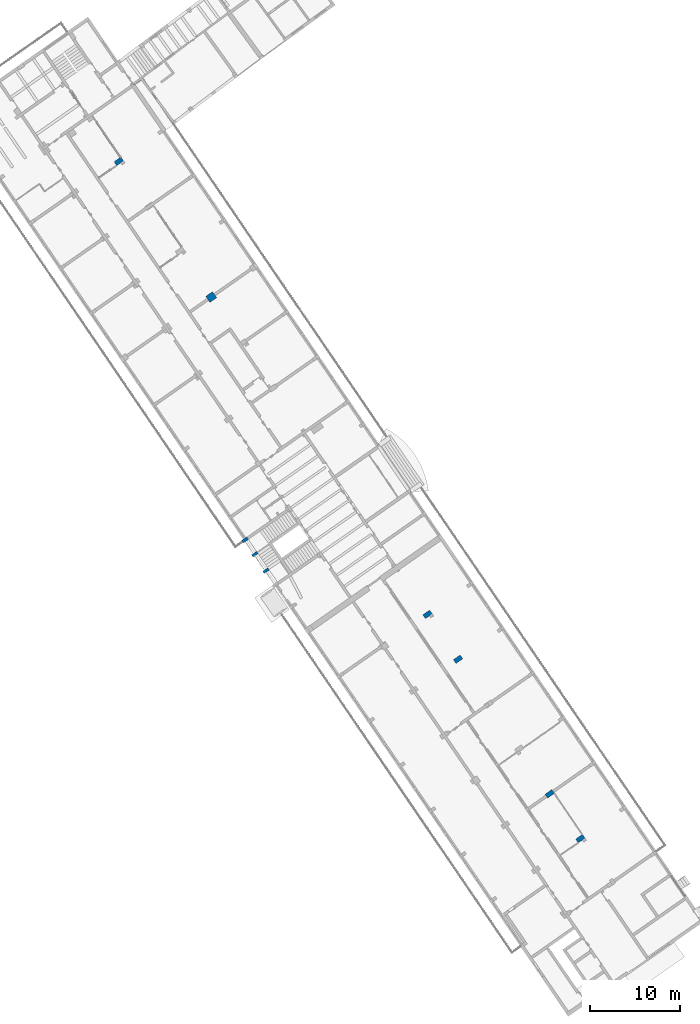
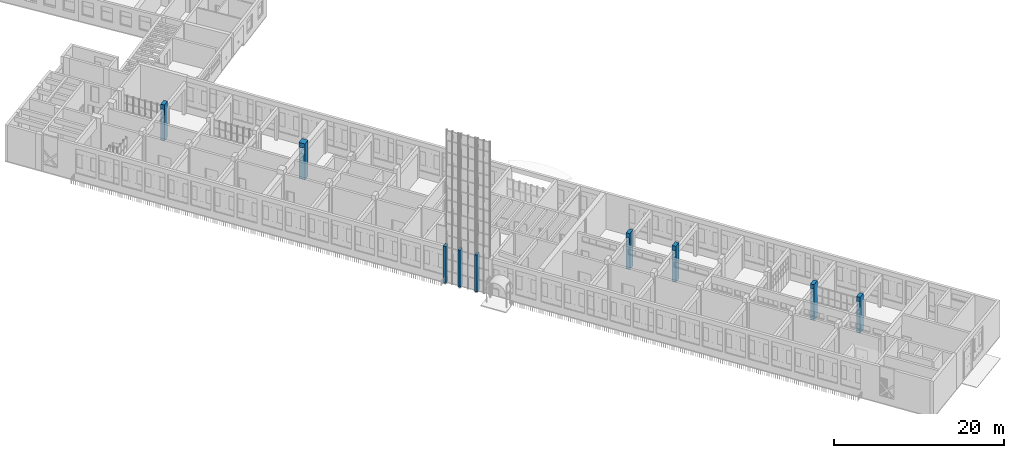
# One storey, part 1 of 157: 9 columns, 2 openings.
"""IFC2X3 building model written with IfcOpenShell, lengths in millimetres."""

from ifc_helpers import new_model, entity, si_unit, converted_unit, derived_unit, direction, frame, frame_2d, origin, origin_2d_with_axis, place, context, subcontext, project, spatial, rectangle, extrude, boolean, source, transform, mapped, material, material_list, type_object, type_shapes, element, save


model = new_model("IFC2X3")

# Units and contexts
model_context = context("Model", 3, precision=0.01, world=origin(), true_north=direction((6.123031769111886e-17, 1.0)))
body_context = subcontext(model_context, "Body", "Model", "MODEL_VIEW")
ifc_project = project(units=[si_unit("LENGTHUNIT", "METRE", prefix="MILLI"), si_unit("AREAUNIT", "SQUARE_METRE"), si_unit("VOLUMEUNIT", "CUBIC_METRE"), converted_unit("PLANEANGLEUNIT", "DEGREE", entity("IfcRatioMeasure", 0.017453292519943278), si_unit("PLANEANGLEUNIT", "RADIAN"), dimensions=[0, 0, 0, 0, 0, 0, 0]), si_unit("MASSUNIT", "GRAM", prefix="KILO"), derived_unit("MASSDENSITYUNIT", [(si_unit("MASSUNIT", "GRAM", prefix="KILO"), 1), (si_unit("LENGTHUNIT", "METRE"), -3)]), derived_unit("MOMENTOFINERTIAUNIT", [(si_unit("LENGTHUNIT", "METRE"), 4)]), si_unit("TIMEUNIT", "SECOND"), si_unit("FREQUENCYUNIT", "HERTZ"), si_unit("THERMODYNAMICTEMPERATUREUNIT", "DEGREE_CELSIUS"), derived_unit("THERMALTRANSMITTANCEUNIT", [(si_unit("MASSUNIT", "GRAM", prefix="KILO"), 1), (si_unit("THERMODYNAMICTEMPERATUREUNIT", "KELVIN"), -1), (si_unit("TIMEUNIT", "SECOND"), -3)]), derived_unit("THERMALCONDUCTANCEUNIT", [(si_unit("MASSUNIT", "GRAM", prefix="KILO"), 1), (si_unit("LENGTHUNIT", "METRE"), 1), (si_unit("THERMODYNAMICTEMPERATUREUNIT", "KELVIN"), -1), (si_unit("TIMEUNIT", "SECOND"), -3)]), derived_unit("VOLUMETRICFLOWRATEUNIT", [(si_unit("LENGTHUNIT", "METRE"), 3), (si_unit("TIMEUNIT", "SECOND"), -1)]), derived_unit("MASSFLOWRATEUNIT", [(si_unit("MASSUNIT", "GRAM", prefix="KILO"), 1), (si_unit("TIMEUNIT", "SECOND"), -1)]), derived_unit("ROTATIONALFREQUENCYUNIT", [(si_unit("TIMEUNIT", "SECOND"), -1)]), si_unit("ELECTRICCURRENTUNIT", "AMPERE"), si_unit("ELECTRICVOLTAGEUNIT", "VOLT"), si_unit("POWERUNIT", "WATT"), converted_unit("FORCEUNIT", "KIP", entity("IfcRatioMeasure", 2.088543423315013e-05), si_unit("FORCEUNIT", "NEWTON"), dimensions=[1, 1, -2, 0, 0, 0, 0]), si_unit("ILLUMINANCEUNIT", "LUX"), si_unit("LUMINOUSFLUXUNIT", "LUMEN"), si_unit("LUMINOUSINTENSITYUNIT", "CANDELA"), derived_unit("USERDEFINED", [(si_unit("MASSUNIT", "GRAM", prefix="KILO"), -1), (si_unit("LENGTHUNIT", "METRE"), -2), (si_unit("TIMEUNIT", "SECOND"), 3), (si_unit("LUMINOUSFLUXUNIT", "LUMEN"), 1)]), derived_unit("USERDEFINED", [(si_unit("MASSUNIT", "GRAM", prefix="KILO"), 1), (si_unit("LENGTHUNIT", "METRE"), 3), (si_unit("TIMEUNIT", "SECOND"), -3), (si_unit("ELECTRICCURRENTUNIT", "AMPERE"), -2)]), derived_unit("USERDEFINED", [(si_unit("LENGTHUNIT", "METRE"), 2), (si_unit("TIMEUNIT", "SECOND"), -2)]), derived_unit("SOUNDPOWERUNIT", [(si_unit("MASSUNIT", "GRAM", prefix="KILO"), 1), (si_unit("LENGTHUNIT", "METRE"), 2), (si_unit("TIMEUNIT", "SECOND"), -3)]), derived_unit("SOUNDPRESSUREUNIT", [(si_unit("MASSUNIT", "GRAM", prefix="KILO"), 1), (si_unit("LENGTHUNIT", "METRE"), -1), (si_unit("TIMEUNIT", "SECOND"), -2)]), derived_unit("LINEARVELOCITYUNIT", [(si_unit("LENGTHUNIT", "METRE"), 1), (si_unit("TIMEUNIT", "SECOND"), -1)]), si_unit("PRESSUREUNIT", "PASCAL"), derived_unit("USERDEFINED", [(si_unit("LENGTHUNIT", "METRE"), -2), (si_unit("MASSUNIT", "GRAM", prefix="KILO"), 1), (si_unit("TIMEUNIT", "SECOND"), -2)]), derived_unit("LINEARFORCEUNIT", [(si_unit("MASSUNIT", "GRAM", prefix="KILO"), 1), (si_unit("LENGTHUNIT", "METRE"), 1), (si_unit("TIMEUNIT", "SECOND"), -2), (si_unit("LENGTHUNIT", "METRE"), -1)]), derived_unit("PLANARFORCEUNIT", [(si_unit("MASSUNIT", "GRAM", prefix="KILO"), 1), (si_unit("LENGTHUNIT", "METRE"), 1), (si_unit("TIMEUNIT", "SECOND"), -2), (si_unit("LENGTHUNIT", "METRE"), -2)]), derived_unit("SPECIFICHEATCAPACITYUNIT", [(si_unit("LENGTHUNIT", "METRE"), 2), (si_unit("TIMEUNIT", "SECOND"), -2), (si_unit("THERMODYNAMICTEMPERATUREUNIT", "KELVIN"), -1)]), derived_unit("VAPORPERMEABILITYUNIT", [(si_unit("TIMEUNIT", "SECOND"), 1), (si_unit("LENGTHUNIT", "METRE"), -1)]), derived_unit("DYNAMICVISCOSITYUNIT", [(si_unit("MASSUNIT", "GRAM", prefix="KILO"), 1), (si_unit("LENGTHUNIT", "METRE"), -1), (si_unit("TIMEUNIT", "SECOND"), -1)]), derived_unit("THERMALEXPANSIONCOEFFICIENTUNIT", [(si_unit("THERMODYNAMICTEMPERATUREUNIT", "KELVIN"), -1)])], contexts=[model_context])

# Site, building, storey
site_placement = place(None, frame((0.0, 0.0, 0.0), z_axis=(0.0, 0.0, 1.0), x_axis=(0.8191520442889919, 0.5735764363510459, 0.0)))
site = spatial("IfcSite", under=ifc_project, at=site_placement, Name="Default", CompositionType="ELEMENT")
building_placement = place(site_placement, origin())
building = spatial("IfcBuilding", under=site, at=building_placement, CompositionType="ELEMENT")
storey_placement = place(building_placement, origin())
storey = spatial("IfcBuildingStorey", under=building, at=storey_placement, Name="1.EG +0.00", CompositionType="ELEMENT", Elevation=-4.331468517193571e-12)

# Column, opening
ifc_material_1 = material(Name="Analytical Wall Surface_CJC")
column_type_1 = type_object("IfcColumnType", Name="Columns_Rectangular:90x50", PredefinedType="COLUMN", material=ifc_material_1)
shared_shape_1 = source(origin(), body_context, "Body", "SweptSolid", [
    extrude(rectangle(XDim=499.999999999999, YDim=900.0000000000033, at=frame_2d((2.1657342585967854e-11, -3.467448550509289e-11), x_axis=(1.0, 0.0))), frame((-211460.80681010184, 73396.35891435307, 0.0), z_axis=(0.0, 0.0, 1.0), x_axis=(0.0, -1.0, 0.0)), (0.0, 0.0, 1.0), 5150.000000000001),
])
type_shapes(column_type_1, [shared_shape_1])
column_1_placement = place(storey_placement, origin())
column_1 = element("IfcColumn", 1, at=column_1_placement, inside=storey, type_object=column_type_1, material=ifc_material_1, Name="Columns_Rectangular:90x50", ObjectType="Columns_Rectangular:90x50", context=body_context, shape_type="MappedRepresentation", body=[
    mapped(shared_shape_1, transform((0.0, 0.0, 0.0), scale=1.0)),
])
opening_1_placement = place(storey_placement, origin())
element("IfcOpeningElement", 2, at=opening_1_placement, cuts=column_1, Name="Columns_Rectangular:90x50:1", ObjectType="Opening", context=body_context, shape_type="SweptSolid", body=[
    extrude(rectangle(XDim=800.0, YDim=349.9999999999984, at=frame_2d((-133.3333333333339, -4.334310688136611e-12), x_axis=(1.0, 0.0))), frame((-211010.80681010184, 73396.3589143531, 3966.6666666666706), z_axis=(-1.0, 0.0, 0.0), x_axis=(0.0, 0.0, -1.0)), (0.0, 0.0, 1.0), 900.0000000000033),
])

# Columns
ifc_material_2 = material(Name="<Unnamed>")
ifc_material_list = material_list([ifc_material_2, ifc_material_1])
column_type_2 = type_object("IfcColumnType", Name="Columns_Rectangular:90x50", PredefinedType="COLUMN", material=ifc_material_list)
shared_shape_2 = source(origin(), body_context, "Body", "SweptSolid", [
    boolean("DIFFERENCE", extrude(rectangle(XDim=900.0000000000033, YDim=499.999999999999, at=frame_2d((0.0, 4.334310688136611e-12), x_axis=(1.0, 0.0))), frame((-211537.1843361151, 67396.84506125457, 0.0)), (0.0, 0.0, 1.0), 5150.000000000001), extrude(rectangle(XDim=800.0, YDim=349.9999999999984, at=frame_2d((4.334310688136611e-12, 0.0), x_axis=(0.0, 1.0))), frame((-211087.1843361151, 67396.84506125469, 4100.0), z_axis=(-1.0, 0.0, 0.0), x_axis=(0.0, 1.0, 0.0)), (0.0, 0.0, 1.0), 900.0000000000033)),
])
type_shapes(column_type_2, [shared_shape_2])
column_2_placement = place(storey_placement, origin())
element("IfcColumn", 3, at=column_2_placement, inside=storey, type_object=column_type_2, material=ifc_material_1, Name="Columns_Rectangular:90x50", ObjectType="Columns_Rectangular:90x50", context=body_context, shape_type="MappedRepresentation", body=[
    mapped(shared_shape_2, transform((0.0, 0.0, 0.0), scale=1.0)),
])
column_type_3 = type_object("IfcColumnType", Name="Columns_Rectangular:90x50", PredefinedType="COLUMN", material=ifc_material_list)
shared_shape_3 = source(origin(), body_context, "Body", "SweptSolid", [
    boolean("DIFFERENCE", extrude(rectangle(XDim=900.0000000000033, YDim=500.0000000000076, at=origin_2d_with_axis()), frame((-211231.6556652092, 91396.35891435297, 0.0)), (0.0, 0.0, 1.0), 5150.000000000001), extrude(rectangle(XDim=800.0, YDim=350.0000000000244, at=frame_2d((-8.668621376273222e-12, 0.0), x_axis=(0.0, 1.0))), frame((-210781.6556652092, 91396.35891435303, 4100.0), z_axis=(-1.0, 0.0, 0.0), x_axis=(0.0, 1.0, 0.0)), (0.0, 0.0, 1.0), 900.0000000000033)),
])
type_shapes(column_type_3, [shared_shape_3])
column_3_placement = place(storey_placement, origin())
element("IfcColumn", 4, at=column_3_placement, inside=storey, type_object=column_type_3, material=ifc_material_1, Name="Columns_Rectangular:90x50", ObjectType="Columns_Rectangular:90x50", context=body_context, shape_type="MappedRepresentation", body=[
    mapped(shared_shape_3, transform((0.0, 0.0, 0.0), scale=1.0)),
])
column_type_4 = type_object("IfcColumnType", Name="Columns_Rectangular:90x50", PredefinedType="COLUMN", material=ifc_material_list)
shared_shape_4 = source(origin(), body_context, "Body", "SweptSolid", [
    boolean("DIFFERENCE", extrude(rectangle(XDim=900.0000000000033, YDim=500.0000000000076, at=origin_2d_with_axis()), frame((-211151.65566520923, 97396.35891435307, 0.0)), (0.0, 0.0, 1.0), 5150.000000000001), extrude(rectangle(XDim=800.0, YDim=350.0000000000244, at=frame_2d((-8.668621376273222e-12, 0.0), x_axis=(0.0, 1.0))), frame((-210701.65566520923, 97396.35891435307, 4100.0), z_axis=(-1.0, 0.0, 0.0), x_axis=(0.0, 1.0, 0.0)), (0.0, 0.0, 1.0), 900.0000000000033)),
])
type_shapes(column_type_4, [shared_shape_4])
column_4_placement = place(storey_placement, origin())
element("IfcColumn", 5, at=column_4_placement, inside=storey, type_object=column_type_4, material=ifc_material_1, Name="Columns_Rectangular:90x50", ObjectType="Columns_Rectangular:90x50", context=body_context, shape_type="MappedRepresentation", body=[
    mapped(shared_shape_4, transform((0.0, 0.0, 0.0), scale=1.0)),
])

# Column, opening
column_type_5 = type_object("IfcColumnType", Name="Columns_Rectangular:90x80", PredefinedType="COLUMN", material=ifc_material_1)
shared_shape_5 = source(origin(), body_context, "Body", "SweptSolid", [
    extrude(rectangle(XDim=799.9999999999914, YDim=900.0000000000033, at=frame_2d((5.198330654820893e-11, -3.467448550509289e-11), x_axis=(1.0, 0.0))), frame((-210616.76675974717, 139846.35891435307, 0.0), z_axis=(0.0, 0.0, 1.0), x_axis=(0.0, -1.0, 0.0)), (0.0, 0.0, 1.0), 5150.000000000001),
])
type_shapes(column_type_5, [shared_shape_5])
column_5_placement = place(storey_placement, origin())
column_5 = element("IfcColumn", 6, at=column_5_placement, inside=storey, type_object=column_type_5, material=ifc_material_1, Name="Columns_Rectangular:90x80", ObjectType="Columns_Rectangular:90x80", context=body_context, shape_type="MappedRepresentation", body=[
    mapped(shared_shape_5, transform((0.0, 0.0, 0.0), scale=1.0)),
])
opening_2_placement = place(storey_placement, origin())
element("IfcOpeningElement", 7, at=opening_2_placement, cuts=column_5, Name="Columns_Rectangular:90x80:1", ObjectType="Opening", context=body_context, shape_type="SweptSolid", body=[
    extrude(rectangle(XDim=800.0, YDim=650.0000000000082, at=frame_2d((133.3333333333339, -8.668621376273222e-12), x_axis=(1.0, 0.0))), frame((-210166.76675974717, 139846.35891435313, 3966.6666666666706), z_axis=(-1.0, 0.0, 0.0), x_axis=(0.0, 0.0, 1.0)), (0.0, 0.0, 1.0), 900.0000000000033),
])

# Columns
column_type_6 = type_object("IfcColumnType", Name="Columns_Rectangular:90x50", PredefinedType="COLUMN", material=ifc_material_list)
shared_shape_6 = source(origin(), body_context, "Body", "SweptSolid", [
    boolean("DIFFERENCE", extrude(rectangle(XDim=900.0000000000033, YDim=499.99999999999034, at=origin_2d_with_axis()), frame((-210383.79642910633, 157996.35891435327, 0.0)), (0.0, 0.0, 1.0), 5150.000000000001), extrude(rectangle(XDim=800.0, YDim=349.99999999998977, at=frame_2d((-1.7323031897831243e-11, 0.0), x_axis=(0.0, 1.0))), frame((-209933.79642910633, 157996.35891435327, 4100.0), z_axis=(-1.0, 0.0, 0.0), x_axis=(0.0, 1.0, 0.0)), (0.0, 0.0, 1.0), 900.0000000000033)),
])
type_shapes(column_type_6, [shared_shape_6])
column_6_placement = place(storey_placement, origin())
element("IfcColumn", 8, at=column_6_placement, inside=storey, type_object=column_type_6, material=ifc_material_1, Name="Columns_Rectangular:90x50", ObjectType="Columns_Rectangular:90x50", context=body_context, shape_type="MappedRepresentation", body=[
    mapped(shared_shape_6, transform((0.0, 0.0, 0.0), scale=1.0)),
])
column_type_7 = type_object("IfcColumnType", Name="Columns_Rectangular:67.5x30", PredefinedType="COLUMN", material=ifc_material_2)
shared_shape_7 = source(origin(), body_context, "Body", "SweptSolid", [
    extrude(rectangle(XDim=674.9999999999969, YDim=300.00000000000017, at=origin_2d_with_axis()), frame((0.0, 0.0, 0.0), z_axis=(0.0, 0.0, 1.0), x_axis=(0.0, -1.0, 0.0)), (0.0, 0.0, 1.0), 5300.0),
])
type_shapes(column_type_7, [shared_shape_7])
for number, where, z_axis, x_axis, name in (
    (9, (-222983.0142643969, 113795.23194626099, 0.0), (0.0, 0.0, 1.0), (0.0, 1.0, 0.0), "Columns_Rectangular:67.5x30"),
    (10, (-223013.01426439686, 111595.231946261, 0.0), (0.0, 0.0, 1.0), (0.0, 1.0, 0.0), "Columns_Rectangular:67.5x30"),
):
    element("IfcColumn", number, at=place(storey_placement, frame(where, z_axis=z_axis, x_axis=x_axis)), inside=storey, type_object=column_type_7, material=ifc_material_2, Name=name, ObjectType="Columns_Rectangular:67.5x30", context=body_context, shape_type="MappedRepresentation", body=[
        mapped(shared_shape_7, transform((0.0, 0.0, 0.0), scale=1.0)),
    ])
column_type_8 = type_object("IfcColumnType", Name="Columns_Rectangular:67.5x35", PredefinedType="COLUMN", material=ifc_material_list)
shared_shape_8 = source(origin(), body_context, "Body", "SweptSolid", [
    extrude(rectangle(XDim=350.00000000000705, YDim=675.0000000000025, at=frame_2d((0.0, -1.7337242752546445e-11), x_axis=(1.0, 0.0))), frame((-222953.01426439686, 115696.35891435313, 0.0), z_axis=(0.0, 0.0, 1.0), x_axis=(0.0, -1.0, 0.0)), (0.0, 0.0, 1.0), 5300.0),
])
type_shapes(column_type_8, [shared_shape_8])
column_7_placement = place(storey_placement, origin())
element("IfcColumn", 11, at=column_7_placement, inside=storey, type_object=column_type_8, material=ifc_material_1, Name="Columns_Rectangular:67.5x35", ObjectType="Columns_Rectangular:67.5x35", context=body_context, shape_type="MappedRepresentation", body=[
    mapped(shared_shape_8, transform((0.0, 0.0, 0.0), scale=1.0)),
])

save(model, "model.ifc")
